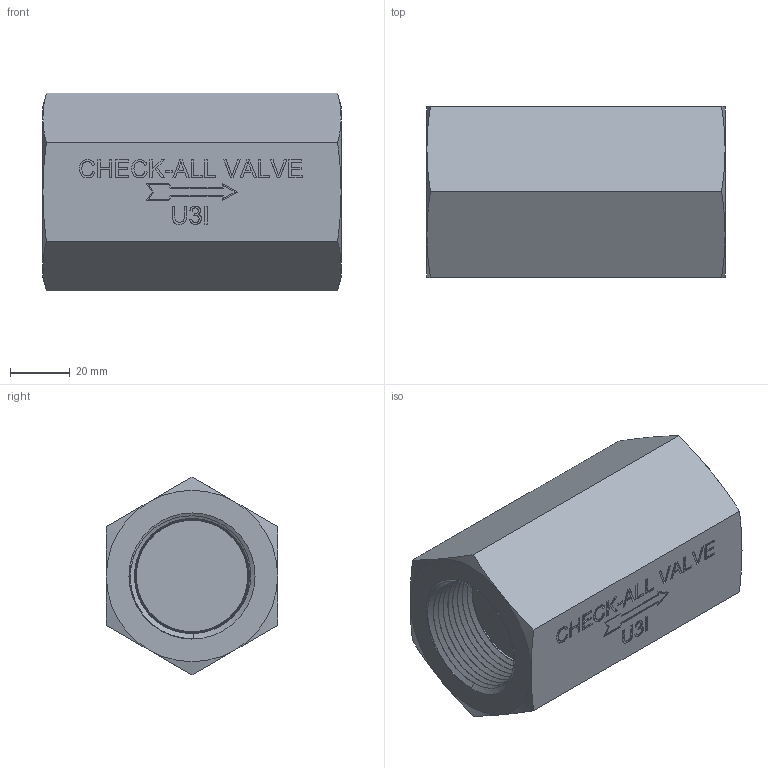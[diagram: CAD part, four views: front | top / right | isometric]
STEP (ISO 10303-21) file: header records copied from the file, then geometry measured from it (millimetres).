
FILE_DESCRIPTION( ( 'Unknown' ), '1' );
FILE_NAME( 'Y:/ENGR/3D Solid Edge Models/U3/U3-PRT/U3I.stp', 'Unknown', ( 'Unknown' ), ( 'Unknown' ), 'PSStep 14.0', 'Unknown', ' ' );
FILE_SCHEMA( ( 'AUTOMOTIVE_DESIGN { 1 0 10303 214 1 1 1 1 }' ) );
Length unit declared in the file: inch
Products named in the file (1): 1
Bounding box: 99.49 x 57.15 x 65.99 mm (x, y, z)
Volume: 233252.4 mm3; surface area: 33645.8 mm2
Topology: 1 solids, 1 shells, 215 faces, 554 edges, 364 vertices
Faces by surface type: extrusion 130, plane 57, cone 16, bspline 12
Entity records: 16963 total; most frequent: CARTESIAN_POINT 10423, ORIENTED_EDGE 1100, DIRECTION 644, EDGE_CURVE 550, VECTOR 464, VERTEX_POINT 362, LINE 334, B_SPLINE_CURVE_WITH_KNOTS 330
